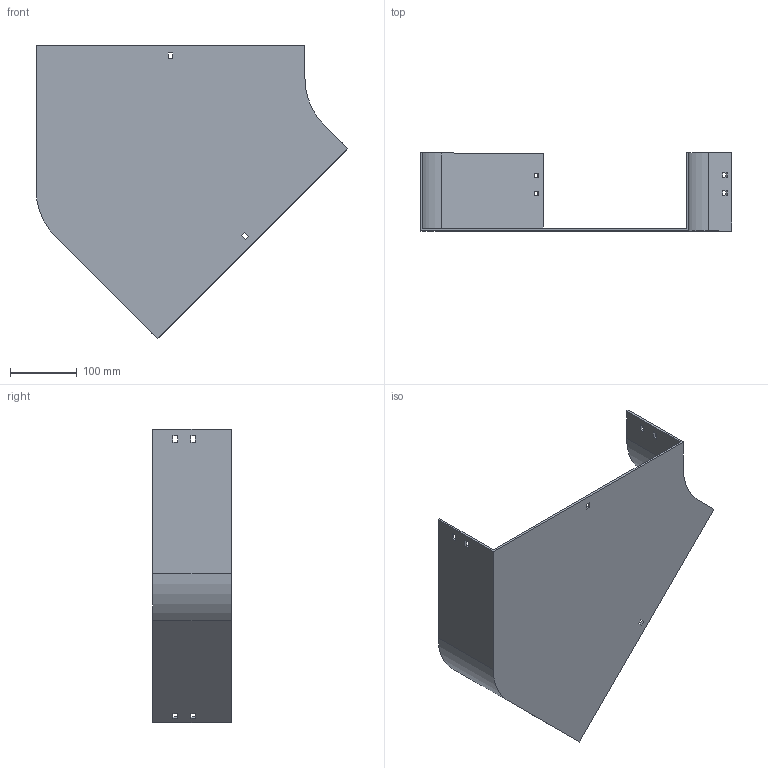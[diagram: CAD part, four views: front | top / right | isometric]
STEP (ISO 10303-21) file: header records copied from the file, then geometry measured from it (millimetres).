
FILE_DESCRIPTION (( 'STEP AP214' ), '1' );
FILE_NAME ('11B1J400.step', '2025-02-21T09:37:12', ( '' ), ( '' ), 'SwSTEP 2.0', 'SolidWorks 2023', '' );
FILE_SCHEMA (( 'AUTOMOTIVE_DESIGN' ));
Length unit declared in the file: millimetre
Products named in the file (1): 11B1J400
Bounding box: 468.64 x 117.5 x 441.74 mm (x, y, z)
Volume: 768806 mm3; surface area: 447331.9 mm2
Topology: 1 solids, 1 shells, 58 faces, 168 edges, 112 vertices
Faces by surface type: plane 54, cylinder 4
Entity records: 1943 total; most frequent: CARTESIAN_POINT 339, ORIENTED_EDGE 336, DIRECTION 294, EDGE_CURVE 168, VECTOR 160, LINE 160, VERTEX_POINT 112, EDGE_LOOP 78
